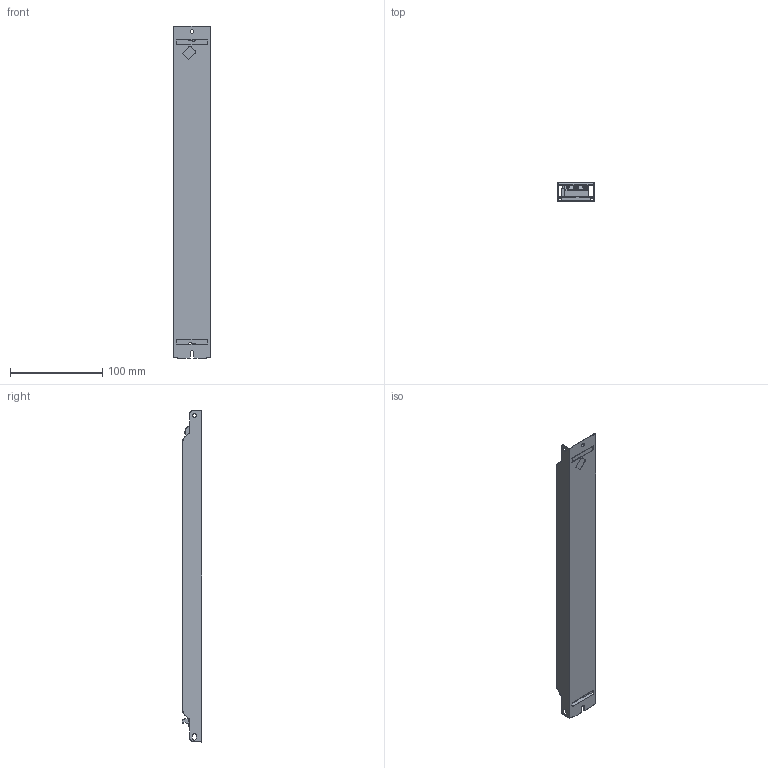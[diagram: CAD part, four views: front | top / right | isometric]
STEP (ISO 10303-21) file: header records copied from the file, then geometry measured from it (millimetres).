
FILE_DESCRIPTION((''),'2;1');
FILE_NAME('15009733Z_DMEC_DCSTR_360X40X21','2015-08-25T',('emanuel.wild'),(''),'PRO/ENGINEER BY PARAMETRIC TECHNOLOGY CORPORATION, 2014000','PRO/ENGINEER BY PARAMETRIC TECHNOLOGY CORPORATION, 2014000','');
FILE_SCHEMA(('AUTOMOTIVE_DESIGN { 1 0 10303 214 1 1 1 1 }'));
Length unit declared in the file: millimetre
Products named in the file (1): 15009733Z_DMEC_DCSTR_360X40X21
Bounding box: 40 x 21.02 x 360 mm (x, y, z)
Volume: 45151.8 mm3; surface area: 106628 mm2
Topology: 1 solids, 1 shells, 287 faces, 835 edges, 556 vertices
Faces by surface type: plane 195, cylinder 92
Entity records: 12516 total; most frequent: CARTESIAN_POINT 1845, ORIENTED_EDGE 1670, DIRECTION 1533, PRESENTATION_STYLE_ASSIGNMENT 842, STYLED_ITEM 836, CURVE_STYLE 835, EDGE_CURVE 835, VECTOR 615
